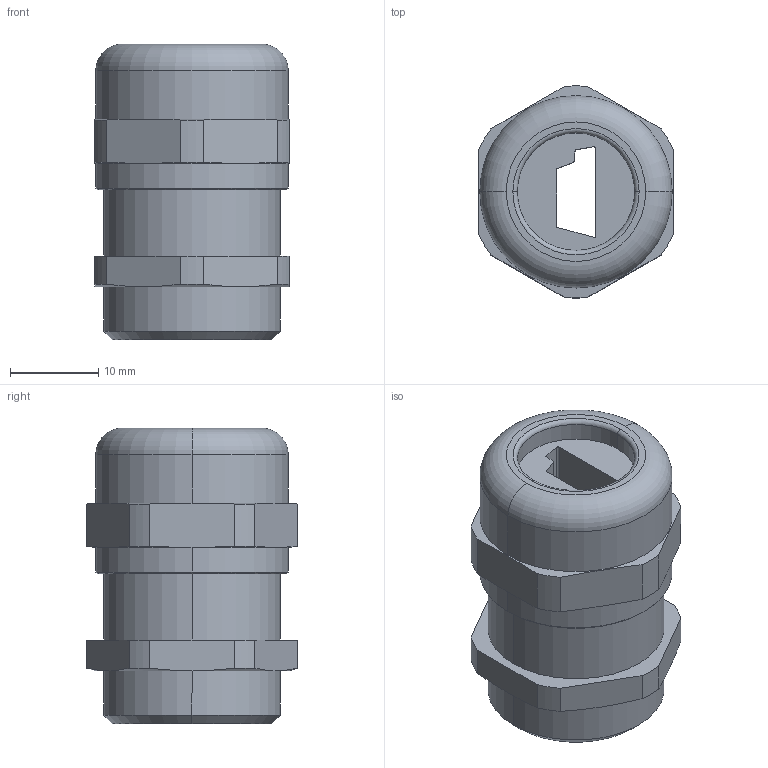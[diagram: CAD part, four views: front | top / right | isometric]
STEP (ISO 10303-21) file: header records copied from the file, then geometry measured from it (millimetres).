
FILE_DESCRIPTION (( 'STEP AP203' ), '1' );
FILE_NAME ('50.620 M-ASI-1.STEP', '2006-04-20T08:28:26', ( ' ' ), ( '' ), 'SwSTEP 2.0', 'SolidWorks 2005278', '' );
FILE_SCHEMA (( 'CONFIG_CONTROL_DESIGN' ));
Length unit declared in the file: millimetre
Products named in the file (1): 50.620 M-ASI-1
Bounding box: 22 x 23.98 x 33.5 mm (x, y, z)
Volume: 7887.6 mm3; surface area: 4357.1 mm2
Topology: 1 solids, 1 shells, 102 faces, 264 edges, 172 vertices
Faces by surface type: plane 62, cylinder 26, cone 10, torus 4
Entity records: 3215 total; most frequent: CARTESIAN_POINT 623, ORIENTED_EDGE 528, DIRECTION 512, EDGE_CURVE 264, LINE 174, VECTOR 174, VERTEX_POINT 172, AXIS2_PLACEMENT_3D 169
